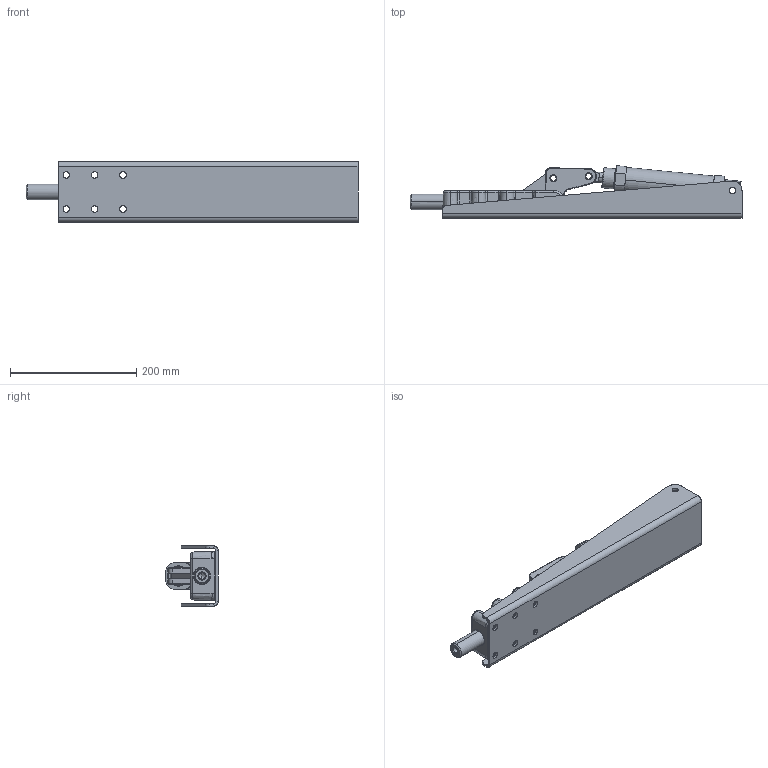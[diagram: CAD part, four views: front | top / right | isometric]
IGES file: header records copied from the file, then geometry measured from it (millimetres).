
Start section: SolidWorks IGES file using analytic representation for surfaces
Global section: file name: D:\GH Files\°Æ\SW-GH-FILES\GH-A\32500A\32500HLA.IGS; native system: SolidWorks 2006 by SolidWorks Corporation; preprocessor: SolidWorks 2006 by SolidWorks Corporation; author: Administrator; date: 060216.175834; units: millimetre
Bounding box: 526.92 x 83.6 x 95.85 mm (x, y, z)
Surface area: 340821 mm2 (no closed solid volume)
Topology: 0 solids, 0 shells, 478 faces, 6617 edges, 6604 vertices
Faces by surface type: revolution 274, bspline 204
